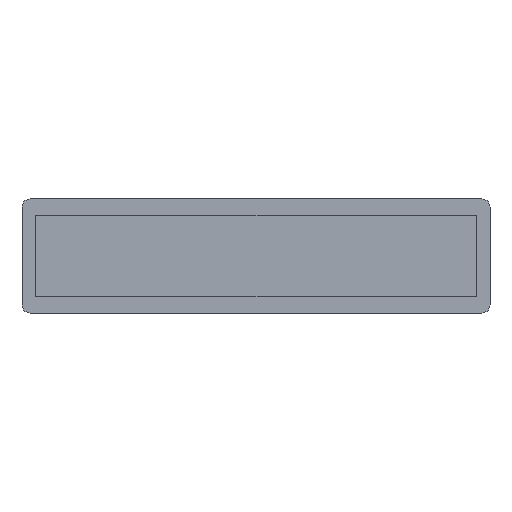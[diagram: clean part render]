
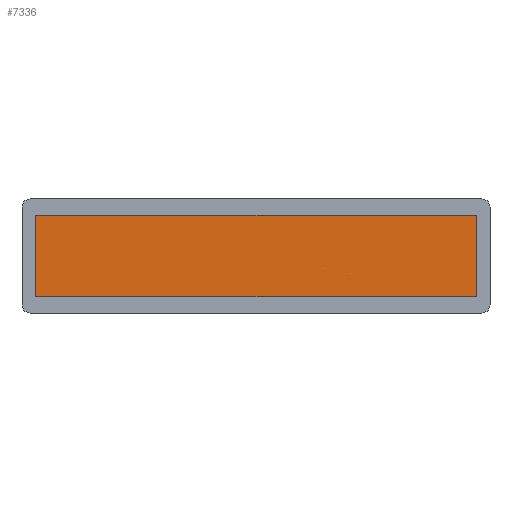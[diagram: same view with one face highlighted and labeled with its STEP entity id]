
A CAD part, front view. The second image highlights one B-rep face of the part: STEP entity #7336.
In plain terms, the highlighted planar face has unit normal (0, -1, 0).
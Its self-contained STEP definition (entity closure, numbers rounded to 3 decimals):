
#132 = ORIENTED_EDGE ( 'NONE', *, *, #5721, .T. ) ;
#350 = PLANE ( 'NONE',  #6408 ) ;
#394 = DIRECTION ( 'NONE',  ( 0., 0., -1. ) ) ;
#644 = VERTEX_POINT ( 'NONE', #1099 ) ;
#797 = CARTESIAN_POINT ( 'NONE',  ( 810., -416.5, 150. ) ) ;
#957 = LINE ( 'NONE', #3434, #2098 ) ;
#1099 = CARTESIAN_POINT ( 'NONE',  ( -810., -416.5, 150. ) ) ;
#1394 = ORIENTED_EDGE ( 'NONE', *, *, #5884, .T. ) ;
#2032 = ORIENTED_EDGE ( 'NONE', *, *, #4154, .T. ) ;
#2098 = VECTOR ( 'NONE', #394, 1000. ) ;
#2125 = DIRECTION ( 'NONE',  ( 0., 0., -1. ) ) ;
#2206 = DIRECTION ( 'NONE',  ( 0., -1., 0. ) ) ;
#2929 = ORIENTED_EDGE ( 'NONE', *, *, #7971, .T. ) ;
#3173 = CARTESIAN_POINT ( 'NONE',  ( 810., -416.5, -150. ) ) ;
#3236 = DIRECTION ( 'NONE',  ( -1., 0., 0. ) ) ;
#3434 = CARTESIAN_POINT ( 'NONE',  ( -810., -416.5, -150. ) ) ;
#4154 = EDGE_CURVE ( 'NONE', #5315, #7963, #7396, .T. ) ;
#4467 = CARTESIAN_POINT ( 'NONE',  ( 810., -416.5, -150. ) ) ;
#5315 = VERTEX_POINT ( 'NONE', #4467 ) ;
#5528 = CARTESIAN_POINT ( 'NONE',  ( 810., -416.5, -150. ) ) ;
#5560 = DIRECTION ( 'NONE',  ( 0., 0., 1. ) ) ;
#5588 = CARTESIAN_POINT ( 'NONE',  ( -810., -416.5, -150. ) ) ;
#5633 = CARTESIAN_POINT ( 'NONE',  ( 810., -416.5, 150. ) ) ;
#5721 = EDGE_CURVE ( 'NONE', #7963, #644, #5749, .T. ) ;
#5749 = LINE ( 'NONE', #5633, #5996 ) ;
#5814 = EDGE_LOOP ( 'NONE', ( #1394, #2929, #2032, #132 ) ) ;
#5884 = EDGE_CURVE ( 'NONE', #644, #6618, #957, .T. ) ;
#5996 = VECTOR ( 'NONE', #3236, 1000. ) ;
#6388 = CARTESIAN_POINT ( 'NONE',  ( 0., -416.5, 0. ) ) ;
#6408 = AXIS2_PLACEMENT_3D ( 'NONE', #6388, #2206, #2125 ) ;
#6618 = VERTEX_POINT ( 'NONE', #5588 ) ;
#6776 = DIRECTION ( 'NONE',  ( 1., 0., 0. ) ) ;
#7301 = VECTOR ( 'NONE', #6776, 1000. ) ;
#7336 = ADVANCED_FACE ( 'NONE', ( #7699 ), #350, .T. ) ;
#7396 = LINE ( 'NONE', #3173, #7601 ) ;
#7440 = LINE ( 'NONE', #5528, #7301 ) ;
#7601 = VECTOR ( 'NONE', #5560, 1000. ) ;
#7699 = FACE_OUTER_BOUND ( 'NONE', #5814, .T. ) ;
#7963 = VERTEX_POINT ( 'NONE', #797 ) ;
#7971 = EDGE_CURVE ( 'NONE', #6618, #5315, #7440, .T. ) ;
